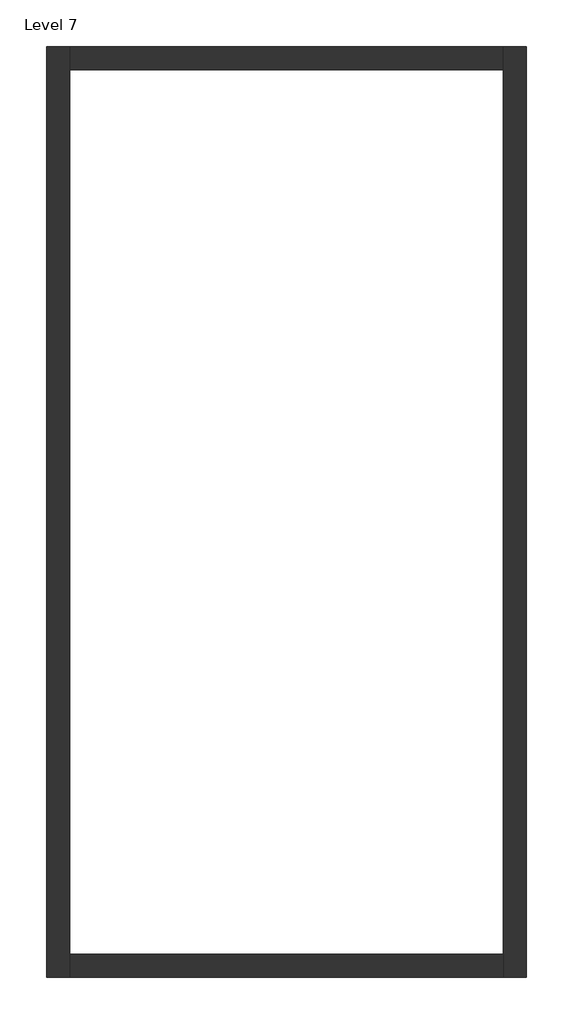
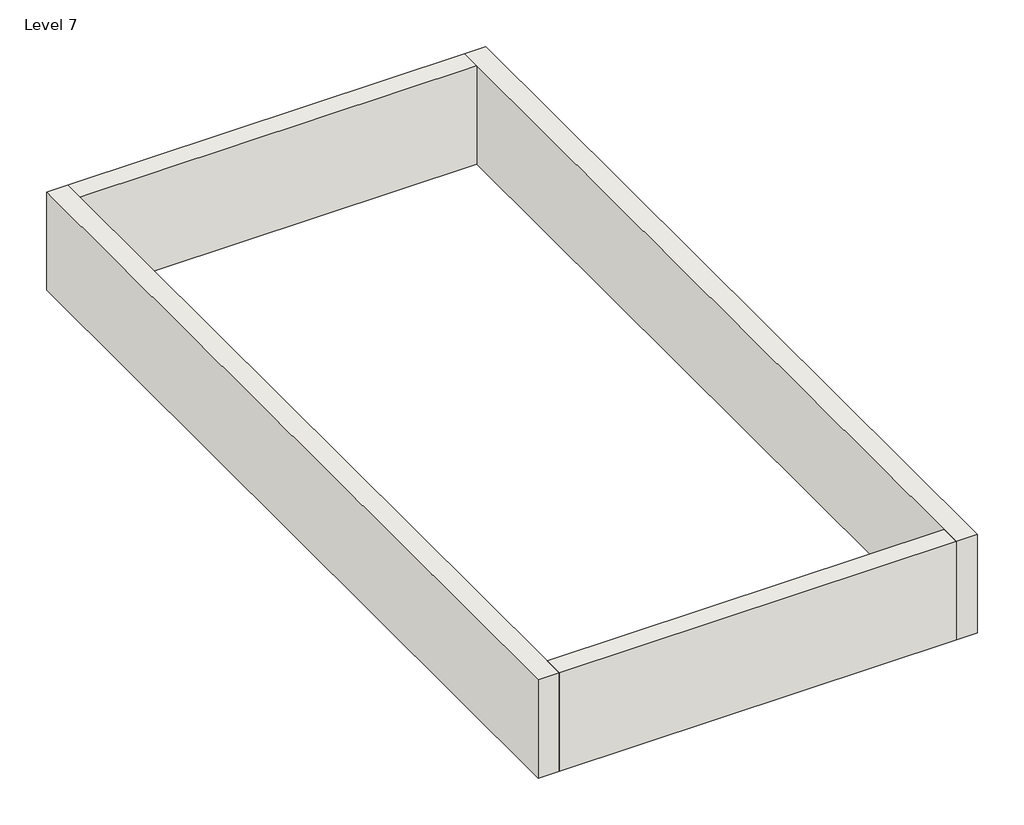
# One storey: 4 walls.
"""IFC4 building model written with IfcOpenShell, lengths in millimetres."""

from ifc_helpers import new_model, si_unit, frame, origin, place, context, project, spatial, polyline, outline, extrude, faceted_brep, element, save

model = new_model("IFC4")

# Units and contexts
model_context = context("Model", 3, world=origin())
ifc_project = project(units=[si_unit("LENGTHUNIT", "METRE", prefix="MILLI")], contexts=[model_context])

# Site, building, storey
site = spatial("IfcSite", under=ifc_project)
building = spatial("IfcBuilding", under=site)
storey = spatial("IfcBuildingStorey", under=building, Name="Level 7", Elevation=-1500.0)

# Walls
placement = place(None, origin())
element("IfcWall", 1, ObjectType="Foundation - 12\" Concrete", at=placement, inside=storey, context=model_context, shape_type="SweptSolid", body=[
    extrude(outline(polyline([(-10269.4409741, 15146.2793907), (-15993.6909741, 15146.2793907), (-15993.6909741, 15451.0793907), (-10269.4409741, 15451.0793907), (-10269.4409741, 15146.2793907)])), frame((0.0, 0.0, -1500.0), z_axis=(0.0, 0.0, 1.0), x_axis=(1.0, 0.0, 0.0)), (0.0, 0.0, 1.0), 1500.0),
])
element("IfcWall", 2, ObjectType="Foundation - 12\" Concrete", at=placement, inside=storey, context=model_context, shape_type="Brep", body=[
    faceted_brep([(-10269.4409741, 15451.0793907, -1500.0), (-10269.4409741, 15146.2793907, -1500.0), (-10269.4409741, 3482.6793907, -1500.0), (-10269.4409741, 3177.8793907, -1500.0), (-10269.4409741, 3177.8793907, 0.0), (-10269.4409741, 3482.6793907, 0.0), (-10269.4409741, 15146.2793907, 0.0), (-10269.4409741, 15451.0793907, 0.0), (-9964.6409741, 15451.0793907, -1500.0), (-9964.6409741, 15451.0793907, 0.0), (-9964.6409741, 3177.8793907, 0.0), (-9964.6409741, 3177.8793907, -1500.0)], [[[0, 1, 2, 3, 4, 5, 6, 7]], [[8, 9, 10, 11]], [[3, 2, 1, 0, 8, 11]], [[7, 6, 5, 4, 10, 9]], [[0, 7, 9, 8]], [[4, 3, 11, 10]]]),
])
element("IfcWall", 3, ObjectType="Foundation - 12\" Concrete", at=placement, inside=storey, context=model_context, shape_type="SweptSolid", body=[
    extrude(outline(polyline([(-15993.6909741, 3482.6793907), (-10269.4409741, 3482.6793907), (-10269.4409741, 3177.8793907), (-15993.6909741, 3177.8793907), (-15993.6909741, 3482.6793907)])), frame((0.0, 0.0, -1500.0), z_axis=(0.0, 0.0, 1.0), x_axis=(1.0, 0.0, 0.0)), (0.0, 0.0, 1.0), 1500.0),
])
element("IfcWall", 4, ObjectType="Foundation - 12\" Concrete", at=placement, inside=storey, context=model_context, shape_type="Brep", body=[
    faceted_brep([(-16298.4909741, 15451.0793907, -1500.0), (-16298.4909741, 3177.8793907, -1500.0), (-16298.4909741, 3177.8793907, 0.0), (-16298.4909741, 15451.0793907, 0.0), (-15993.6909741, 15451.0793907, -1500.0), (-15993.6909741, 15451.0793907, 0.0), (-15993.6909741, 15146.2793907, 0.0), (-15993.6909741, 3482.6793907, 0.0), (-15993.6909741, 3177.8793907, 0.0), (-15993.6909741, 3177.8793907, -1500.0), (-15993.6909741, 3482.6793907, -1500.0), (-15993.6909741, 15146.2793907, -1500.0)], [[[0, 1, 2, 3]], [[4, 5, 6, 7, 8, 9, 10, 11]], [[1, 0, 4, 11, 10, 9]], [[3, 2, 8, 7, 6, 5]], [[0, 3, 5, 4]], [[2, 1, 9, 8]]]),
])

save(model, "model.ifc")
